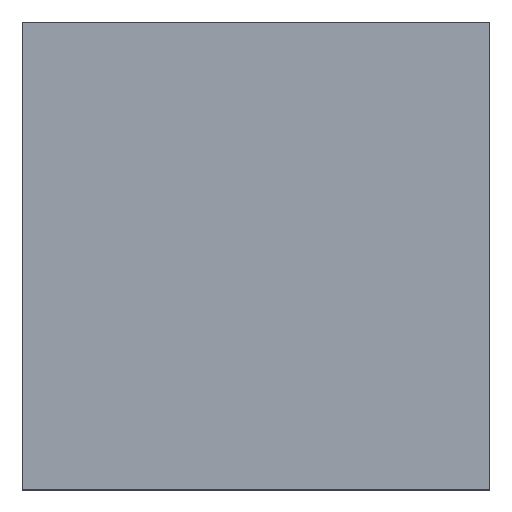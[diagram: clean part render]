
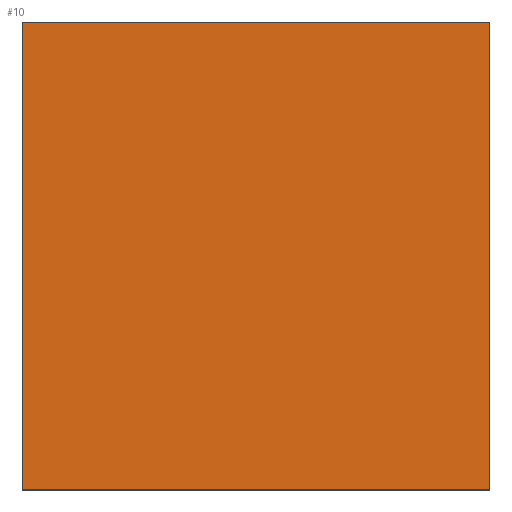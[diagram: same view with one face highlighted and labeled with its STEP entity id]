
A CAD part, top view. The second image highlights one B-rep face of the part: STEP entity #10.
In plain terms, the highlighted planar face has unit normal (0, 0, 1).
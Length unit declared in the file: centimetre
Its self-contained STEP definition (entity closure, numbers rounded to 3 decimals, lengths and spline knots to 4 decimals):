
#1 = DIRECTION ( 'NONE',  ( 1., 0., 0. ) ) ;
#10 = ADVANCED_FACE ( 'NONE', ( #272 ), #16, .T. ) ;
#16 = PLANE ( 'NONE',  #226 ) ;
#19 = ORIENTED_EDGE ( 'NONE', *, *, #469, .T. ) ;
#47 = EDGE_CURVE ( 'NONE', #106, #187, #233, .T. ) ;
#53 = CARTESIAN_POINT ( 'NONE',  ( 1000., 1000., 1000. ) ) ;
#68 = CARTESIAN_POINT ( 'NONE',  ( 0., 0., 1000. ) ) ;
#106 = VERTEX_POINT ( 'NONE', #458 ) ;
#115 = VECTOR ( 'NONE', #323, 100. ) ;
#128 = ORIENTED_EDGE ( 'NONE', *, *, #487, .T. ) ;
#150 = CARTESIAN_POINT ( 'NONE',  ( 1000., 1000., 1000. ) ) ;
#168 = VECTOR ( 'NONE', #200, 100. ) ;
#187 = VERTEX_POINT ( 'NONE', #68 ) ;
#200 = DIRECTION ( 'NONE',  ( 0., 1., 0. ) ) ;
#216 = EDGE_CURVE ( 'NONE', #187, #357, #256, .T. ) ;
#226 = AXIS2_PLACEMENT_3D ( 'NONE', #436, #442, #1 ) ;
#233 = LINE ( 'NONE', #397, #443 ) ;
#237 = ORIENTED_EDGE ( 'NONE', *, *, #216, .T. ) ;
#256 = LINE ( 'NONE', #379, #115 ) ;
#259 = CARTESIAN_POINT ( 'NONE',  ( 1000., 0., 1000. ) ) ;
#272 = FACE_OUTER_BOUND ( 'NONE', #479, .T. ) ;
#318 = LINE ( 'NONE', #53, #168 ) ;
#323 = DIRECTION ( 'NONE',  ( 1., 0., 0. ) ) ;
#356 = DIRECTION ( 'NONE',  ( 0., -1., 0. ) ) ;
#357 = VERTEX_POINT ( 'NONE', #259 ) ;
#364 = VECTOR ( 'NONE', #437, 100. ) ;
#368 = ORIENTED_EDGE ( 'NONE', *, *, #47, .T. ) ;
#379 = CARTESIAN_POINT ( 'NONE',  ( 0., 0., 1000. ) ) ;
#397 = CARTESIAN_POINT ( 'NONE',  ( 0., 1000., 1000. ) ) ;
#404 = VERTEX_POINT ( 'NONE', #150 ) ;
#436 = CARTESIAN_POINT ( 'NONE',  ( 0., 0., 1000. ) ) ;
#437 = DIRECTION ( 'NONE',  ( -1., 0., 0. ) ) ;
#441 = LINE ( 'NONE', #473, #364 ) ;
#442 = DIRECTION ( 'NONE',  ( 0., 0., 1. ) ) ;
#443 = VECTOR ( 'NONE', #356, 100. ) ;
#458 = CARTESIAN_POINT ( 'NONE',  ( 0., 1000., 1000. ) ) ;
#469 = EDGE_CURVE ( 'NONE', #404, #106, #441, .T. ) ;
#473 = CARTESIAN_POINT ( 'NONE',  ( 0., 1000., 1000. ) ) ;
#479 = EDGE_LOOP ( 'NONE', ( #368, #237, #128, #19 ) ) ;
#487 = EDGE_CURVE ( 'NONE', #357, #404, #318, .T. ) ;
